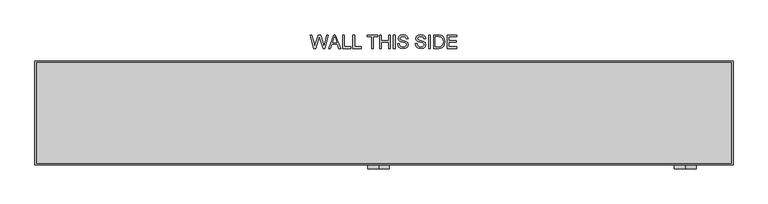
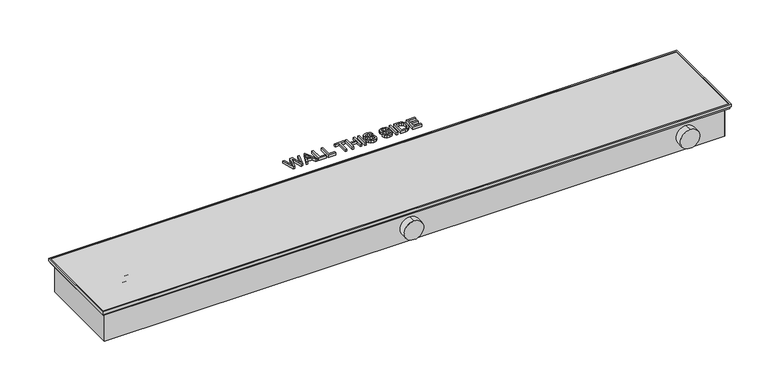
"""IFC4 building model written with IfcOpenShell, lengths in millimetres: unitary equipment geometry, VERANO CVK4P-II : CVK4P-14/35-II."""

import ifcopenshell
import ifcopenshell.guid

model = None  # the IFC model being written
_history = None  # IfcOwnerHistory: only IFC2X3 demands one
_inside = {}  # id of a spatial element -> (the spatial element, [elements in it])
_under = {}  # id of a project, library or spatial element -> (it, [spatial elements below it])
_declared = {}  # id of a project -> (the project, [libraries it declares])
_typed = {}  # id of a type object -> (the type object, [elements of that type])
_made_of = {}  # id of a material, layer set ... -> (it, [elements and type objects made of it])


def new_model(schema):
    """Start an empty IFC model of exactly this schema.

    Asked for "IFC4X3", IfcOpenShell would pick the latest addendum, in which some entities
    have other attributes; the version numbers below select the first issue.
    IFC2X3 requires an IfcOwnerHistory on every rooted entity: one is made here for all.
    """
    global model, _history
    if schema == "IFC4X3":
        model = ifcopenshell.file(schema_version=(4, 3, 0, 0))
    else:
        model = ifcopenshell.file(schema=schema)
    _inside.clear()
    _under.clear()
    _declared.clear()
    _typed.clear()
    _made_of.clear()
    _history = None
    if model.schema == "IFC2X3":
        org = make("IfcOrganization", Name="unknown")
        user = make(
            "IfcPersonAndOrganization",
            ThePerson=make("IfcPerson", FamilyName="unknown"),
            TheOrganization=org,
        )
        app = make(
            "IfcApplication",
            ApplicationDeveloper=org,
            Version="unknown",
            ApplicationFullName="unknown",
            ApplicationIdentifier="unknown",
        )
        _history = make(
            "IfcOwnerHistory",
            OwningUser=user,
            OwningApplication=app,
            ChangeAction="ADDED",
            CreationDate=0,
        )
    return model


def make(cls, **values):
    """One entity of the class cls with the attributes given. An attribute that is None is left unset."""
    return model.create_entity(
        cls, **{name: value for name, value in values.items() if value is not None}
    )


def rooted(cls, **values):
    """An entity with a GlobalId (a new one), such as an element, a storey or a relation."""
    return make(cls, GlobalId=ifcopenshell.guid.new(), OwnerHistory=_history, **values)


def si_unit(unit_type, name, prefix=None):
    """IfcSIUnit, for example si_unit("LENGTHUNIT", "METRE", prefix="MILLI")."""
    return make("IfcSIUnit", UnitType=unit_type, Prefix=prefix, Name=name)


def assignment(units):
    """IfcUnitAssignment: the units of a project."""
    return None if units is None else make("IfcUnitAssignment", Units=units)


def point(xyz):
    """IfcCartesianPoint."""
    return None if xyz is None else make("IfcCartesianPoint", Coordinates=xyz)


def direction(xyz):
    """IfcDirection."""
    return None if xyz is None else make("IfcDirection", DirectionRatios=xyz)


def frame(location, z_axis=None, x_axis=None):
    """IfcAxis2Placement3D, a coordinate frame: its origin and axes. An axis left out is left unset."""
    return make(
        "IfcAxis2Placement3D",
        Location=point(location),
        Axis=direction(z_axis),
        RefDirection=direction(x_axis),
    )


def frame_2d(location, x_axis=None):
    """IfcAxis2Placement2D, a coordinate frame in the plane: its origin and x axis."""
    return make(
        "IfcAxis2Placement2D", Location=point(location), RefDirection=direction(x_axis)
    )


def origin():
    """The frame at (0, 0, 0) with its axes left unset."""
    return frame((0.0, 0.0, 0.0))


def origin_with_axes():
    """The frame at (0, 0, 0) with the z axis (0, 0, 1) and the x axis (1, 0, 0) written out."""
    return frame((0.0, 0.0, 0.0), z_axis=(0.0, 0.0, 1.0), x_axis=(1.0, 0.0, 0.0))


def place(relative_to, where):
    """IfcLocalPlacement: puts the frame where relative to a parent placement (None: the world)."""
    return make(
        "IfcLocalPlacement", PlacementRelTo=relative_to, RelativePlacement=where
    )


def context(
    kind, dimensions, precision=None, world=None, true_north=None, identifier=None
):
    """IfcGeometricRepresentationContext, for example the 3D "Model" context."""
    return make(
        "IfcGeometricRepresentationContext",
        ContextIdentifier=identifier,
        ContextType=kind,
        CoordinateSpaceDimension=dimensions,
        Precision=precision,
        WorldCoordinateSystem=world,
        TrueNorth=true_north,
    )


def project(units=None, contexts=None):
    """IfcProject with its units and contexts."""
    return rooted(
        "IfcProject",
        Name="project",
        RepresentationContexts=contexts,
        UnitsInContext=assignment(units),
    )


def spatial(cls, under=None, at=None, **own):
    """A site, building, storey or space (cls), placed at a placement, below another one or the project."""
    s = rooted(cls, ObjectPlacement=at, **own)
    if under is not None:
        _under.setdefault(under.id(), (under, []))[1].append(s)
    return s


def polyline(points):
    """IfcPolyline through the points."""
    return make("IfcPolyline", Points=[point(p) for p in points])


def circle_curve(where, radius):
    """IfcCircle in the frame where."""
    return make("IfcCircle", Position=where, Radius=radius)


def trimmed(basis, trim1, trim2, sense, master):
    """IfcTrimmedCurve: the piece of a basis curve between two trims."""
    return make(
        "IfcTrimmedCurve",
        BasisCurve=basis,
        Trim1=trim1,
        Trim2=trim2,
        SenseAgreement=sense,
        MasterRepresentation=master,
    )


def segment(curve, same_sense, transition):
    """IfcCompositeCurveSegment."""
    return make(
        "IfcCompositeCurveSegment",
        Transition=transition,
        SameSense=same_sense,
        ParentCurve=curve,
    )


def composite_curve(segments, self_intersect=None):
    """IfcCompositeCurve: segments joined end to end."""
    return make("IfcCompositeCurve", Segments=segments, SelfIntersect=self_intersect)


def outline(outer, holes=None, kind="AREA"):
    """IfcArbitraryClosedProfileDef: a profile drawn as a closed curve; with holes, ...WithVoids."""
    if holes is None:
        return make("IfcArbitraryClosedProfileDef", ProfileType=kind, OuterCurve=outer)
    return make(
        "IfcArbitraryProfileDefWithVoids",
        ProfileType=kind,
        OuterCurve=outer,
        InnerCurves=holes,
    )


def extrude(swept, where, along, depth):
    """IfcExtrudedAreaSolid: the profile swept, set in the frame where, extruded along a direction by depth."""
    return make(
        "IfcExtrudedAreaSolid",
        SweptArea=swept,
        Position=where,
        ExtrudedDirection=direction(along),
        Depth=depth,
    )


def faces_of(points, faces, orient=None, outer=None):
    """IfcFace entities. A face is a list of loops; a loop is a list of indices into points, from 0.

    orient and outer hold one flag for each loop. By default every Orientation is true, the
    first loop of a face is its IfcFaceOuterBound and the others are IfcFaceBound.
    """
    made = []
    for i, loops in enumerate(faces):
        bounds = []
        for j, loop in enumerate(loops):
            is_outer = j == 0 if outer is None else outer[i][j]
            bounds.append(
                make(
                    "IfcFaceOuterBound" if is_outer else "IfcFaceBound",
                    Bound=make("IfcPolyLoop", Polygon=[points[k] for k in loop]),
                    Orientation=True if orient is None else orient[i][j],
                )
            )
        made.append(make("IfcFace", Bounds=bounds))
    return made


def faceted_brep(points, faces, orient=None, outer=None, voids=None):
    """IfcFacetedBrep: a solid bounded by flat faces; with voids (closed shells), ...WithVoids."""
    shared = [point(p) for p in points]
    hull = make("IfcClosedShell", CfsFaces=faces_of(shared, faces, orient, outer))
    if voids is None:
        return make("IfcFacetedBrep", Outer=hull)
    return make(
        "IfcFacetedBrepWithVoids",
        Outer=hull,
        Voids=[
            make(cls, CfsFaces=faces_of(shared, fs, o, b)) for cls, fs, o, b in voids
        ],
    )


def shape(context_of_items, identifier, shape_type, items):
    """IfcShapeRepresentation: the items that make up one representation, for example the "Body"."""
    return make(
        "IfcShapeRepresentation",
        ContextOfItems=context_of_items,
        RepresentationIdentifier=identifier,
        RepresentationType=shape_type,
        Items=items,
    )


def source(mapping_origin, context_of_items, identifier, shape_type, items):
    """IfcRepresentationMap: a shape defined once, which mapped items show again and again."""
    return make(
        "IfcRepresentationMap",
        MappingOrigin=mapping_origin,
        MappedRepresentation=shape(context_of_items, identifier, shape_type, items),
    )


def transform(
    local_origin,
    x_axis=None,
    y_axis=None,
    z_axis=None,
    scale=None,
    scale2=None,
    scale3=None,
    uniform=True,
):
    """IfcCartesianTransformationOperator3D, or its non-uniform kind. x_axis, y_axis, z_axis: its Axis1, 2, 3."""
    if uniform:
        return make(
            "IfcCartesianTransformationOperator3D",
            Axis1=direction(x_axis),
            Axis2=direction(y_axis),
            LocalOrigin=point(local_origin),
            Scale=scale,
            Axis3=direction(z_axis),
        )
    return make(
        "IfcCartesianTransformationOperator3DnonUniform",
        Axis1=direction(x_axis),
        Axis2=direction(y_axis),
        LocalOrigin=point(local_origin),
        Scale=scale,
        Axis3=direction(z_axis),
        Scale2=scale2,
        Scale3=scale3,
    )


def mapped(mapping_source, mapping_target):
    """IfcMappedItem: shows the shape of a source again, moved by a transform."""
    return make(
        "IfcMappedItem", MappingSource=mapping_source, MappingTarget=mapping_target
    )


def made_of(thing, what):
    """Note that an element or type object is made of a material, layer set ...; save() writes the relation."""
    if what is not None:
        _made_of.setdefault(what.id(), (what, []))[1].append(thing)
    return thing


def element(
    cls,
    number,
    at=None,
    inside=None,
    cuts=None,
    type_object=None,
    material=None,
    context=None,
    identifier="Body",
    shape_type=None,
    held_by="IfcProductDefinitionShape",
    body=None,
    shapes=None,
    **own,
):
    """One element of the class cls, such as IfcWall. Its Tag is "e" and its number.

    at: its placement. inside: the storey or other place that contains it. cuts: it is an
    opening in that element (IfcRelVoidsElement). A single representation is given by context,
    identifier, shape_type and body (its items); several are given by shapes. held_by: the class
    of the entity that holds the representations. save() writes the other relations.
    """
    e = rooted(cls, Tag="e%d" % number, ObjectPlacement=at, **own)
    if body is not None:
        shapes = [shape(context, identifier, shape_type, body)]
    if shapes is not None:
        e.Representation = make(held_by, Representations=shapes)
    if inside is not None:
        _inside.setdefault(inside.id(), (inside, []))[1].append(e)
    if cuts is not None:
        rooted(
            "IfcRelVoidsElement", RelatingBuildingElement=cuts, RelatedOpeningElement=e
        )
    if type_object is not None:
        _typed.setdefault(type_object.id(), (type_object, []))[1].append(e)
    return made_of(e, material)


def aggregate(whole, parts):
    """IfcRelAggregates: a whole, such as a stair, and the parts it consists of."""
    return rooted("IfcRelAggregates", RelatingObject=whole, RelatedObjects=parts)


def save(model, path):
    """Write the relations noted so far, then the file.

    IfcRelAggregates (storeys below a building ...), IfcRelContainedInSpatialStructure (elements
    in a storey), IfcRelDefinesByType, IfcRelAssociatesMaterial and IfcRelDeclares: one each for
    every whole, place, type object, material and project.
    """
    for whole, parts in _under.values():
        aggregate(whole, parts)
    for where, things in _inside.values():
        rooted(
            "IfcRelContainedInSpatialStructure",
            RelatedElements=things,
            RelatingStructure=where,
        )
    for kind, things in _typed.values():
        rooted("IfcRelDefinesByType", RelatedObjects=things, RelatingType=kind)
    for what, things in _made_of.values():
        rooted("IfcRelAssociatesMaterial", RelatedObjects=things, RelatingMaterial=what)
    for by, libraries in _declared.values():
        rooted("IfcRelDeclares", RelatingContext=by, RelatedDefinitions=libraries)
    model.write(path)


def unitary_equipment_82bee816(model_context):
    return source(origin(), model_context, "Body", "SolidModel", [
        extrude(outline(composite_curve([segment(trimmed(circle_curve(frame_2d((-79.0, 1104.0)), 40.0), [point((-39.0, 1104.0))], [point((-119.0, 1104.0))], False, "CARTESIAN"), True, "CONTINUOUS"), segment(trimmed(circle_curve(frame_2d((-79.0, 1104.0)), 40.0), [point((-119.0, 1104.0))], [point((-39.0, 1104.0))], False, "CARTESIAN"), True, "CONTINUOUS")], self_intersect=False)), frame((0.0, -205.0, 0.0), z_axis=(0.0, 1.0, 0.0), x_axis=(0.0, 0.0, 1.0)), (0.0, 0.0, 1.0), 30.0),
        extrude(outline(composite_curve([segment(trimmed(circle_curve(frame_2d((-79.0, -20.0)), 40.0), [point((-39.0, -20.0))], [point((-119.0, -20.0))], False, "CARTESIAN"), True, "CONTINUOUS"), segment(trimmed(circle_curve(frame_2d((-79.0, -20.0)), 40.0), [point((-119.0, -20.0))], [point((-39.0, -20.0))], False, "CARTESIAN"), True, "CONTINUOUS")], self_intersect=False)), frame((0.0, -205.0, 0.0), z_axis=(0.0, 1.0, 0.0), x_axis=(0.0, 0.0, 1.0)), (0.0, 0.0, 1.0), 30.0),
        extrude(outline(composite_curve([segment(trimmed(circle_curve(frame_2d((35.0, -71.0)), 10.0), [point((35.0, -61.0))], [point((35.0, -81.0))], False, "CARTESIAN"), True, "CONTINUOUS"), segment(trimmed(circle_curve(frame_2d((35.0, -71.0)), 10.0), [point((35.0, -81.0))], [point((35.0, -61.0))], False, "CARTESIAN"), True, "CONTINUOUS")], self_intersect=False)), frame((-1127.0, 0.0, 0.0), z_axis=(1.0, 0.0, 0.0), x_axis=(0.0, 1.0, 0.0)), (0.0, 0.0, 1.0), 70.0),
        extrude(outline(composite_curve([segment(trimmed(circle_curve(frame_2d((143.0, -79.0)), 10.0), [point((143.0, -69.0))], [point((143.0, -89.0))], False, "CARTESIAN"), True, "CONTINUOUS"), segment(trimmed(circle_curve(frame_2d((143.0, -79.0)), 10.0), [point((143.0, -89.0))], [point((143.0, -69.0))], False, "CARTESIAN"), True, "CONTINUOUS")], self_intersect=False)), frame((-1127.0, 0.0, 0.0), z_axis=(1.0, 0.0, 0.0), x_axis=(0.0, 1.0, 0.0)), (0.0, 0.0, 1.0), 70.0),
        extrude(outline(polyline([(-1067.0, -25.0), (-1067.0, -5.0), (-1057.0, -5.0), (-1057.0, -25.0), (-1067.0, -25.0)])), frame((0.0, 0.0, -130.0), z_axis=(0.0, 0.0, 1.0), x_axis=(1.0, 0.0, 0.0)), (0.0, 0.0, 1.0), 10.0),
        faceted_brep([(1273.0, -185.0, -16.5), (1273.0, -185.0, 1.5), (1273.0, 185.0, 1.5), (1273.0, 185.0, -16.5), (1274.0, -186.0, 0.0), (1274.0, -186.0, -16.5), (1274.0, 186.0, -16.5), (1274.0, 186.0, 0.0), (1278.0, -190.0, -10.0), (1278.0, -190.0, 0.0), (1278.0, 190.0, 0.0), (1278.0, 190.0, -10.0), (1279.0, -191.0, 1.5), (1279.0, -191.0, -10.0), (1279.0, 191.0, -10.0), (1279.0, 191.0, 1.5), (-1273.0, 185.0, 1.5), (-1273.0, 185.0, -16.5), (-1274.0, 186.0, -16.5), (-1274.0, 186.0, 0.0), (-1278.0, 190.0, 0.0), (-1278.0, 190.0, -10.0), (-1279.0, 191.0, -10.0), (-1279.0, 191.0, 1.5), (-1273.0, -185.0, 1.5), (-1273.0, -185.0, -16.5), (-1274.0, -186.0, -16.5), (-1274.0, -186.0, 0.0), (-1278.0, -190.0, 0.0), (-1278.0, -190.0, -10.0), (-1279.0, -191.0, -10.0), (-1279.0, -191.0, 1.5)], [[[0, 1, 2, 3]], [[4, 5, 6, 7]], [[8, 9, 10, 11]], [[12, 13, 14, 15]], [[3, 2, 16, 17]], [[7, 6, 18, 19]], [[11, 10, 20, 21]], [[15, 14, 22, 23]], [[17, 16, 24, 25]], [[19, 18, 26, 27]], [[21, 20, 28, 29]], [[23, 22, 30, 31]], [[15, 23, 31, 12], [1, 24, 16, 2]], [[25, 24, 1, 0]], [[5, 26, 18, 6], [3, 17, 25, 0]], [[27, 26, 5, 4]], [[9, 28, 20, 10], [7, 19, 27, 4]], [[29, 28, 9, 8]], [[13, 30, 22, 14], [11, 21, 29, 8]], [[31, 30, 13, 12]]]),
        extrude(outline(composite_curve([segment(trimmed(circle_curve(frame_2d((23.0, -36.0)), 10.0), [point((23.0, -26.0))], [point((23.0, -46.0))], False, "CARTESIAN"), True, "CONTINUOUS"), segment(trimmed(circle_curve(frame_2d((23.0, -36.0)), 10.0), [point((23.0, -46.0))], [point((23.0, -26.0))], False, "CARTESIAN"), True, "CONTINUOUS")], self_intersect=False)), frame((-1127.0, 0.0, 0.0), z_axis=(1.0, 0.0, 0.0), x_axis=(0.0, 1.0, 0.0)), (0.0, 0.0, 1.0), 70.0),
        extrude(outline(composite_curve([segment(trimmed(circle_curve(frame_2d((115.0, -97.0)), 10.0), [point((115.0, -87.0))], [point((115.0, -107.0))], False, "CARTESIAN"), True, "CONTINUOUS"), segment(trimmed(circle_curve(frame_2d((115.0, -97.0)), 10.0), [point((115.0, -107.0))], [point((115.0, -87.0))], False, "CARTESIAN"), True, "CONTINUOUS")], self_intersect=False)), frame((-1127.0, 0.0, 0.0), z_axis=(1.0, 0.0, 0.0), x_axis=(0.0, 1.0, 0.0)), (0.0, 0.0, 1.0), 70.0),
        extrude(outline(polyline([(-256.9591346, 237.0), (-270.3846154, 286.2307692), (-264.0384615, 286.2307692), (-256.25, 253.875), (-253.8461538, 243.8870192), (-251.2740385, 252.7211538), (-241.5144231, 286.2307692), (-232.3677885, 286.2307692), (-225.2764423, 261.9399038), (-220.0, 243.8870192), (-217.6682692, 253.5865385), (-209.8076923, 286.2307692), (-203.4615385, 286.2307692), (-216.8990385, 237.0), (-223.4735577, 237.0), (-235.2764423, 274.9807692), (-236.9230769, 280.28125), (-238.7740385, 273.8990385), (-249.53125, 237.0), (-256.9591346, 237.0)])), origin_with_axes(), (0.0, 0.0, 1.0), 10.0),
        extrude(outline(polyline([(-203.0408654, 237.0), (-183.3894231, 286.2307692), (-178.1490385, 286.2307692), (-158.4975962, 237.0), (-165.0, 237.0), (-170.6370192, 252.3846154), (-190.9134615, 252.3846154), (-196.5384615, 237.0), (-203.0408654, 237.0)]), holes=[polyline([(-188.6538462, 258.5384615), (-172.8846154, 258.5384615), (-177.3197115, 270.6418269), (-180.7692308, 280.0769231), (-183.8341346, 271.6995192), (-188.6538462, 258.5384615)])]), origin_with_axes(), (0.0, 0.0, 1.0), 10.0),
        extrude(outline(polyline([(-151.9230769, 237.0), (-151.9230769, 286.2307692), (-145.7692308, 286.2307692), (-145.7692308, 243.1538462), (-121.1538462, 243.1538462), (-121.1538462, 237.0), (-151.9230769, 237.0)])), origin_with_axes(), (0.0, 0.0, 1.0), 10.0),
        extrude(outline(polyline([(-114.2307692, 237.0), (-114.2307692, 286.2307692), (-108.0769231, 286.2307692), (-108.0769231, 243.1538462), (-83.4615385, 243.1538462), (-83.4615385, 237.0), (-114.2307692, 237.0)])), origin_with_axes(), (0.0, 0.0, 1.0), 10.0),
        extrude(outline(polyline([(-45.0, 237.0), (-45.0, 280.0769231), (-61.1538462, 280.0769231), (-61.1538462, 286.2307692), (-22.6923077, 286.2307692), (-22.6923077, 280.0769231), (-38.8461538, 280.0769231), (-38.8461538, 237.0), (-45.0, 237.0)])), origin_with_axes(), (0.0, 0.0, 1.0), 10.0),
        extrude(outline(polyline([(-15.7692308, 237.0), (-15.7692308, 286.2307692), (-9.6153846, 286.2307692), (-9.6153846, 266.2307692), (16.5384615, 266.2307692), (16.5384615, 286.2307692), (22.6923077, 286.2307692), (22.6923077, 237.0), (16.5384615, 237.0), (16.5384615, 260.0769231), (-9.6153846, 260.0769231), (-9.6153846, 237.0), (-15.7692308, 237.0)])), origin_with_axes(), (0.0, 0.0, 1.0), 10.0),
        extrude(outline(polyline([(34.2307692, 237.0), (34.2307692, 286.2307692), (40.3846154, 286.2307692), (40.3846154, 237.0), (34.2307692, 237.0)])), origin_with_axes(), (0.0, 0.0, 1.0), 10.0),
        extrude(outline(polyline([(50.3846154, 253.9230769), (56.5384615, 253.9230769), (58.5216346, 247.7632212), (63.3653846, 243.8689904), (70.7451923, 242.3846154), (77.1754808, 243.5084135), (81.328125, 246.5973558), (82.6923077, 250.7259615), (81.6706731, 254.5661058), (77.4879808, 257.3605769), (68.5276442, 259.7103365), (58.8822115, 262.7451923), (53.6478365, 267.3245192), (51.9230769, 273.4423077), (54.0564904, 280.4074519), (60.2884615, 285.3233173), (69.4110577, 287.0), (79.1466346, 285.2451923), (85.6370192, 280.0889423), (88.0769231, 272.3846154), (81.9230769, 272.3846154), (78.4375, 278.7067308), (69.6514423, 280.8461538), (60.8413462, 278.7307692), (58.0769231, 273.6225962), (60.0360577, 269.3557692), (70.0841346, 265.9182692), (80.9735577, 262.8293269), (86.9290865, 257.8413462), (88.8461538, 250.8822115), (86.640625, 243.5204327), (80.2944712, 238.1478365), (70.9855769, 236.2307692), (59.9939904, 238.2980769), (53.0408654, 244.5240385), (50.3846154, 253.9230769)])), origin_with_axes(), (0.0, 0.0, 1.0), 10.0),
        extrude(outline(polyline([(115.0, 253.9230769), (121.1538462, 253.9230769), (123.1370192, 247.7632212), (127.9807692, 243.8689904), (135.3605769, 242.3846154), (141.7908654, 243.5084135), (145.9435096, 246.5973558), (147.3076923, 250.7259615), (146.2860577, 254.5661058), (142.1033654, 257.3605769), (133.1430288, 259.7103365), (123.4975962, 262.7451923), (118.2632212, 267.3245192), (116.5384615, 273.4423077), (118.671875, 280.4074519), (124.9038462, 285.3233173), (134.0264423, 287.0), (143.7620192, 285.2451923), (150.2524038, 280.0889423), (152.6923077, 272.3846154), (146.5384615, 272.3846154), (143.0528846, 278.7067308), (134.2668269, 280.8461538), (125.4567308, 278.7307692), (122.6923077, 273.6225962), (124.6514423, 269.3557692), (134.6995192, 265.9182692), (145.5889423, 262.8293269), (151.5444712, 257.8413462), (153.4615385, 250.8822115), (151.2560096, 243.5204327), (144.9098558, 238.1478365), (135.6009615, 236.2307692), (124.609375, 238.2980769), (117.65625, 244.5240385), (115.0, 253.9230769)])), origin_with_axes(), (0.0, 0.0, 1.0), 10.0),
        extrude(outline(polyline([(163.4615385, 237.0), (163.4615385, 286.2307692), (169.6153846, 286.2307692), (169.6153846, 237.0), (163.4615385, 237.0)])), origin_with_axes(), (0.0, 0.0, 1.0), 10.0),
        extrude(outline(polyline([(181.9230769, 237.0), (181.9230769, 286.2307692), (198.90625, 286.2307692), (207.6923077, 285.5216346), (214.9278846, 282.0), (220.7572115, 273.5865385), (222.6923077, 261.8798077), (221.3822115, 251.9459135), (218.0168269, 244.7764423), (213.5216346, 240.3112981), (207.6382212, 237.8413462), (199.7235577, 237.0), (181.9230769, 237.0)]), holes=[polyline([(188.0769231, 243.1538462), (198.9663462, 243.1538462), (206.8870192, 244.0432692), (211.4543269, 246.5552885), (215.1983173, 252.6670673), (216.5384615, 261.9759615), (213.9122596, 273.6346154), (207.5240385, 279.0913462), (198.7980769, 280.0769231), (188.0769231, 280.0769231), (188.0769231, 243.1538462)])]), origin_with_axes(), (0.0, 0.0, 1.0), 10.0),
        extrude(outline(polyline([(231.1538462, 237.0), (231.1538462, 286.2307692), (266.5384615, 286.2307692), (266.5384615, 280.0769231), (237.3076923, 280.0769231), (237.3076923, 265.4615385), (265.0, 265.4615385), (265.0, 259.3076923), (237.3076923, 259.3076923), (237.3076923, 243.1538462), (267.3076923, 243.1538462), (267.3076923, 237.0), (231.1538462, 237.0)])), origin_with_axes(), (0.0, 0.0, 1.0), 10.0),
        extrude(outline(polyline([(1213.0, 175.0), (1213.0, -162.0), (-1057.0, -162.0), (-1057.0, 175.0), (1213.0, 175.0)])), frame((0.0, 0.0, -139.0), z_axis=(0.0, 0.0, 1.0), x_axis=(1.0, 0.0, 0.0)), (0.0, 0.0, 1.0), 121.0),
        extrude(outline(polyline([(1275.0, 187.0), (1275.0, -187.0), (-1275.0, -187.0), (-1275.0, 187.0), (1275.0, 187.0)])), frame((0.0, 0.0, -18.0), z_axis=(0.0, 0.0, 1.0), x_axis=(1.0, 0.0, 0.0)), (0.0, 0.0, 1.0), 18.0),
        faceted_brep([(1262.0, -174.0, -17.0), (1262.0, 174.0, -17.0), (1262.0, 174.0, -139.0), (1262.0, -174.0, -139.0), (1275.0, -187.0, 0.0), (1275.0, -187.0, -18.0), (1275.0, 187.0, -18.0), (1275.0, 187.0, 0.0), (1274.0, -186.0, -17.0), (1274.0, -186.0, 0.0), (1274.0, 186.0, 0.0), (1274.0, 186.0, -17.0), (1263.0, -175.0, -18.0), (1263.0, -175.0, -140.0), (1263.0, 175.0, -140.0), (1263.0, 175.0, -18.0), (-1275.0, 187.0, -18.0), (-1275.0, 187.0, 0.0), (-1274.0, 186.0, 0.0), (-1274.0, 186.0, -17.0), (-1263.0, 175.0, -140.0), (-1263.0, 175.0, -18.0), (-1262.0, 174.0, -17.0), (-1262.0, 174.0, -139.0), (-1275.0, -187.0, -18.0), (-1275.0, -187.0, 0.0), (-1274.0, -186.0, 0.0), (-1274.0, -186.0, -17.0), (-1263.0, -175.0, -140.0), (-1263.0, -175.0, -18.0), (-1262.0, -174.0, -17.0), (-1262.0, -174.0, -139.0)], [[[0, 1, 2, 3]], [[4, 5, 6, 7]], [[8, 9, 10, 11]], [[12, 13, 14, 15]], [[7, 6, 16, 17]], [[11, 10, 18, 19]], [[15, 14, 20, 21]], [[1, 22, 23, 2]], [[17, 16, 24, 25]], [[19, 18, 26, 27]], [[21, 20, 28, 29]], [[22, 30, 31, 23]], [[8, 11, 19, 27], [1, 0, 30, 22]], [[5, 4, 25, 24]], [[4, 7, 17, 25], [10, 9, 26, 18]], [[9, 8, 27, 26]], [[6, 5, 24, 16], [12, 15, 21, 29]], [[13, 12, 29, 28]], [[14, 13, 28, 20]], [[30, 0, 3, 31]], [[3, 2, 23, 31]]]),
    ])


if __name__ == "__main__":
    model = new_model("IFC4")
    model_context = context("Model", 3, world=origin())
    ifc_project = project(units=[si_unit("LENGTHUNIT", "METRE", prefix="MILLI")], contexts=[model_context])
    site = spatial("IfcSite", under=ifc_project)
    building = spatial("IfcBuilding", under=site)
    placement = place(None, origin())
    unitary_equipment_shape = unitary_equipment_82bee816(model_context)
    element("IfcUnitaryEquipment", 1, ObjectType="VERANO CVK4P-II : CVK4P-14/35-II", at=placement, inside=building, context=model_context, shape_type="MappedRepresentation", body=[
        mapped(unitary_equipment_shape, transform((0.0, 0.0, 0.0), x_axis=(1.0, 0.0, 0.0), y_axis=(0.0, 1.0, 0.0), z_axis=(0.0, 0.0, 1.0))),
    ])
    save(model, "model.ifc")
